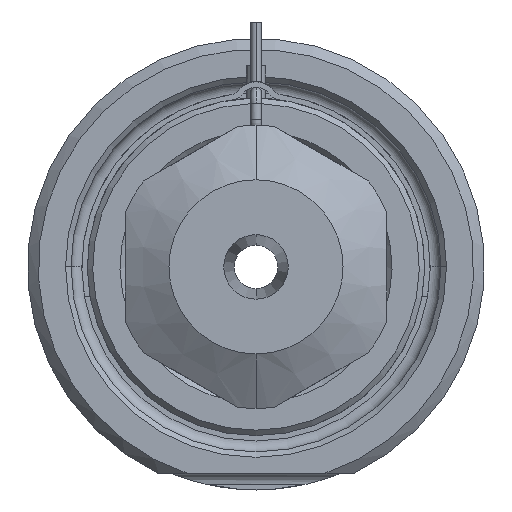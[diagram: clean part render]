
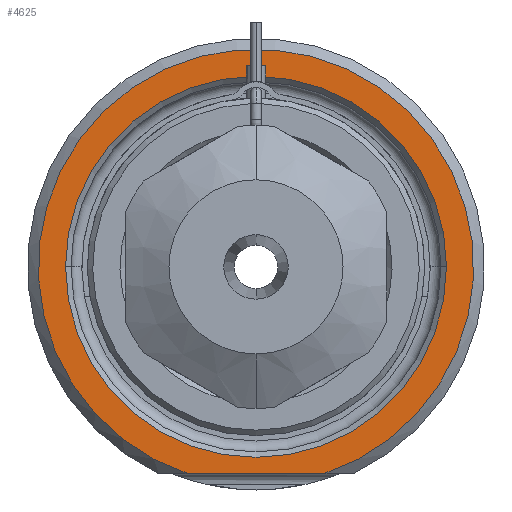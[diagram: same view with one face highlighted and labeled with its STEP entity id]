
A CAD part, front view. The second image highlights one B-rep face of the part: STEP entity #4625.
In plain terms, the highlighted planar face has unit normal (0, -1, 0).
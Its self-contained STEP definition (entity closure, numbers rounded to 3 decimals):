
#1597=CARTESIAN_POINT('',(0.,0.,0.));
#1598=DIRECTION('',(0.,-1.,0.));
#1599=DIRECTION('',(0.312,0.,-0.95));
#1600=AXIS2_PLACEMENT_3D('',#1597,#1598,#1599);
#1621=DIRECTION('',(1.,0.,0.));
#1622=VECTOR('',#1621,12.49);
#1623=CARTESIAN_POINT('',(-6.245,0.,-19.));
#1624=LINE('',#1623,#1622);
#1625=CARTESIAN_POINT('',(0.,0.,0.));
#1626=DIRECTION('',(0.,1.,0.));
#1627=DIRECTION('',(-1.,0.,0.));
#1628=AXIS2_PLACEMENT_3D('',#1625,#1626,#1627);
#1630=CARTESIAN_POINT('',(0.,0.,0.));
#1631=DIRECTION('',(0.,1.,0.));
#1632=DIRECTION('',(1.,0.,0.));
#1633=AXIS2_PLACEMENT_3D('',#1630,#1631,#1632);
#2509=CARTESIAN_POINT('',(-17.5,0.,0.));
#2510=CARTESIAN_POINT('',(17.5,0.,0.));
#2511=VERTEX_POINT('',#2509);
#2512=VERTEX_POINT('',#2510);
#2553=CARTESIAN_POINT('',(-6.245,0.,-19.));
#2554=CARTESIAN_POINT('',(6.245,0.,-19.));
#2555=VERTEX_POINT('',#2553);
#2556=VERTEX_POINT('',#2554);
#4610=CARTESIAN_POINT('',(0.,0.,0.));
#4611=DIRECTION('',(0.,-1.,0.));
#4612=DIRECTION('',(1.,0.,0.));
#4613=AXIS2_PLACEMENT_3D('',#4610,#4611,#4612);
#4614=PLANE('',#4613);
#4615=ORIENTED_EDGE('',*,*,#4542,.F.);
#4616=ORIENTED_EDGE('',*,*,#4602,.F.);
#4617=EDGE_LOOP('',(#4615,#4616));
#4618=FACE_OUTER_BOUND('',#4617,.F.);
#4620=ORIENTED_EDGE('',*,*,#4619,.F.);
#4622=ORIENTED_EDGE('',*,*,#4621,.F.);
#4623=EDGE_LOOP('',(#4620,#4622));
#4624=FACE_BOUND('',#4623,.F.);
#4625=ADVANCED_FACE('',(#4618,#4624),#4614,.T.);
#1601=CIRCLE('',#1600,20.);
#1629=CIRCLE('',#1628,17.5);
#1634=CIRCLE('',#1633,17.5);
#4542=EDGE_CURVE('',#2555,#2556,#1624,.T.);
#4602=EDGE_CURVE('',#2556,#2555,#1601,.T.);
#4619=EDGE_CURVE('',#2511,#2512,#1629,.T.);
#4621=EDGE_CURVE('',#2512,#2511,#1634,.T.);
